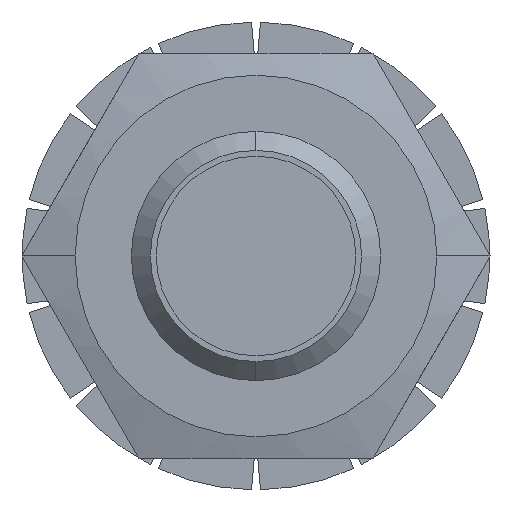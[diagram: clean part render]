
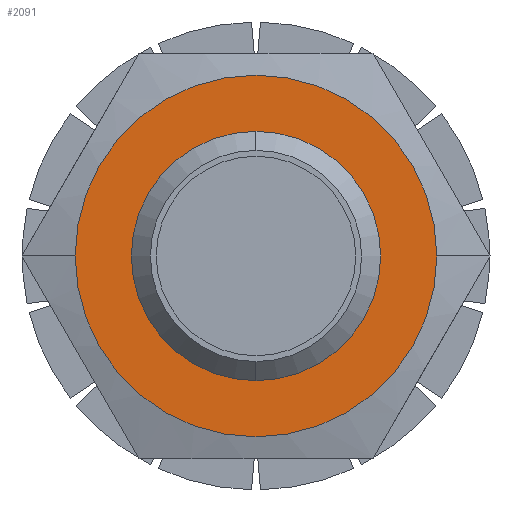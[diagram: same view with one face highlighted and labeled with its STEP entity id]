
A CAD part, left-side view. The second image highlights one B-rep face of the part: STEP entity #2091.
In plain terms, the highlighted planar face has unit normal (-1, 0, 0).
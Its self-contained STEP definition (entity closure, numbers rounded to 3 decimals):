
#445 = EDGE_CURVE ( 'NONE', #4087, #777, #1299, .T. ) ;
#627 = ORIENTED_EDGE ( 'NONE', *, *, #445, .F. ) ;
#646 = AXIS2_PLACEMENT_3D ( 'NONE', #2095, #5074, #2530 ) ;
#676 = DIRECTION ( 'NONE',  ( 1., 0., 0. ) ) ;
#702 = CARTESIAN_POINT ( 'NONE',  ( -24., 0., 4. ) ) ;
#749 = CARTESIAN_POINT ( 'NONE',  ( -24., 0., 0. ) ) ;
#777 = VERTEX_POINT ( 'NONE', #3002 ) ;
#985 = CARTESIAN_POINT ( 'NONE',  ( -24., 0., -4. ) ) ;
#1002 = DIRECTION ( 'NONE',  ( 1., 0., 0. ) ) ;
#1152 = VERTEX_POINT ( 'NONE', #702 ) ;
#1168 = DIRECTION ( 'NONE',  ( 0., 1., 0. ) ) ;
#1299 = CIRCLE ( 'NONE', #4734, 5.8 ) ;
#1450 = AXIS2_PLACEMENT_3D ( 'NONE', #749, #3721, #1168 ) ;
#1708 = AXIS2_PLACEMENT_3D ( 'NONE', #5251, #1002, #3995 ) ;
#1749 = FACE_OUTER_BOUND ( 'NONE', #2632, .T. ) ;
#1952 = DIRECTION ( 'NONE',  ( 1., 0., 0. ) ) ;
#2091 = ADVANCED_FACE ( 'NONE', ( #1749, #4014 ), #2285, .F. ) ;
#2095 = CARTESIAN_POINT ( 'NONE',  ( -24., 0., 0. ) ) ;
#2221 = EDGE_CURVE ( 'NONE', #1152, #5209, #2488, .T. ) ;
#2285 = PLANE ( 'NONE',  #1708 ) ;
#2406 = CARTESIAN_POINT ( 'NONE',  ( -24., -5.8, 0. ) ) ;
#2488 = CIRCLE ( 'NONE', #3416, 4. ) ;
#2530 = DIRECTION ( 'NONE',  ( 0., 0., -1. ) ) ;
#2632 = EDGE_LOOP ( 'NONE', ( #3282, #627 ) ) ;
#3002 = CARTESIAN_POINT ( 'NONE',  ( -24., 5.8, 0. ) ) ;
#3214 = CARTESIAN_POINT ( 'NONE',  ( -24., 0., 0. ) ) ;
#3282 = ORIENTED_EDGE ( 'NONE', *, *, #3415, .F. ) ;
#3415 = EDGE_CURVE ( 'NONE', #777, #4087, #3660, .T. ) ;
#3416 = AXIS2_PLACEMENT_3D ( 'NONE', #3214, #676, #3647 ) ;
#3575 = ORIENTED_EDGE ( 'NONE', *, *, #4829, .T. ) ;
#3647 = DIRECTION ( 'NONE',  ( 0., 0., -1. ) ) ;
#3660 = CIRCLE ( 'NONE', #1450, 5.8 ) ;
#3721 = DIRECTION ( 'NONE',  ( 1., 0., 0. ) ) ;
#3995 = DIRECTION ( 'NONE',  ( 0., 0., 1. ) ) ;
#4014 = FACE_BOUND ( 'NONE', #5225, .T. ) ;
#4087 = VERTEX_POINT ( 'NONE', #2406 ) ;
#4507 = CARTESIAN_POINT ( 'NONE',  ( -24., 0., 0. ) ) ;
#4654 = CIRCLE ( 'NONE', #646, 4. ) ;
#4734 = AXIS2_PLACEMENT_3D ( 'NONE', #4507, #1952, #4929 ) ;
#4829 = EDGE_CURVE ( 'NONE', #5209, #1152, #4654, .T. ) ;
#4929 = DIRECTION ( 'NONE',  ( 0., 1., 0. ) ) ;
#5074 = DIRECTION ( 'NONE',  ( 1., 0., 0. ) ) ;
#5209 = VERTEX_POINT ( 'NONE', #985 ) ;
#5225 = EDGE_LOOP ( 'NONE', ( #5353, #3575 ) ) ;
#5251 = CARTESIAN_POINT ( 'NONE',  ( -24., -5.8, 0. ) ) ;
#5353 = ORIENTED_EDGE ( 'NONE', *, *, #2221, .T. ) ;
